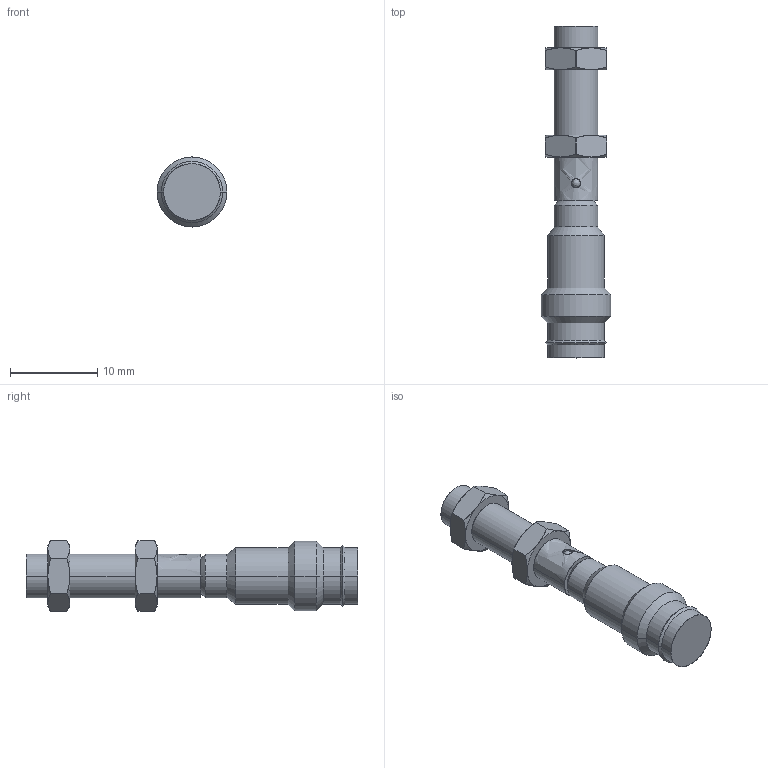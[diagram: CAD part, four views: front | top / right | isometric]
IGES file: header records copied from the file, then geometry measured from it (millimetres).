
Global section: file name: e:\temp\web_IS205MM_1E5_S8.igs; native system: NX V6.0; preprocessor: SIEMENS UGS NX 6.0; date: 20121116.093952; units: millimetre
Bounding box: 8 x 38 x 8.08 mm (x, y, z)
Surface area: 895.7 mm2 (no closed solid volume)
Topology: 0 solids, 0 shells, 74 faces, 366 edges, 364 vertices
Faces by surface type: bspline 74
